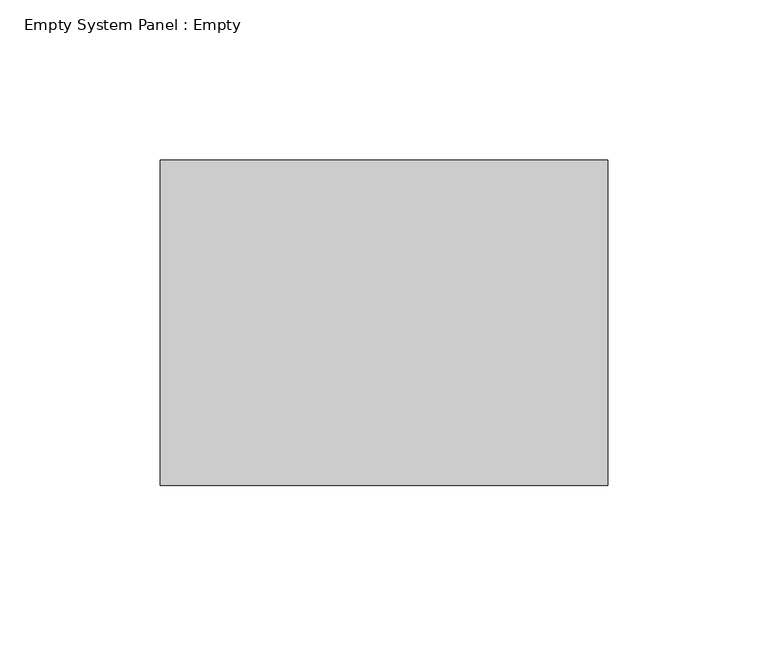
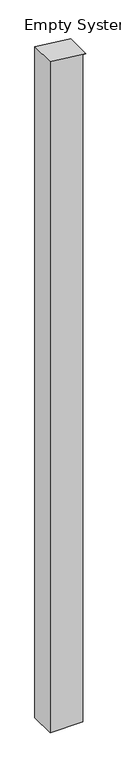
"""IFC4 building model written with IfcOpenShell, lengths in millimetres: plate geometry, Empty System Panel : Empty."""

from ifc_helpers import new_model, si_unit, frame, origin, place, context, project, spatial, polyline, outline, extrude, source, transform, mapped, element, save


def empty_system_panel_empty_5b25d540(model_context):
    return source(origin(), model_context, "Body", "SweptSolid", [
        extrude(outline(polyline([(0.0, -69.85), (0.0, 57.15), (2741.35669, 57.15), (2741.35669, 69.85), (2756.98188, -69.85), (0.0, -69.85)])), frame((0.0, -50.8, 0.0), z_axis=(0.0, 1.0, 0.0), x_axis=(0.0, 0.0, 1.0)), (0.0, 0.0, 1.0), 101.6),
    ])


if __name__ == "__main__":
    model = new_model("IFC4")
    model_context = context("Model", 3, world=origin())
    ifc_project = project(units=[si_unit("LENGTHUNIT", "METRE", prefix="MILLI")], contexts=[model_context])
    site = spatial("IfcSite", under=ifc_project)
    building = spatial("IfcBuilding", under=site)
    placement = place(None, origin())
    empty_system_panel_empty_shape = empty_system_panel_empty_5b25d540(model_context)
    element("IfcPlate", 1, ObjectType="Empty System Panel : Empty", at=placement, inside=building, context=model_context, shape_type="MappedRepresentation", body=[
        mapped(empty_system_panel_empty_shape, transform((0.0, 0.0, 0.0), x_axis=(1.0, 0.0, 0.0), y_axis=(0.0, 1.0, 0.0), z_axis=(0.0, 0.0, 1.0))),
    ])
    save(model, "model.ifc")
